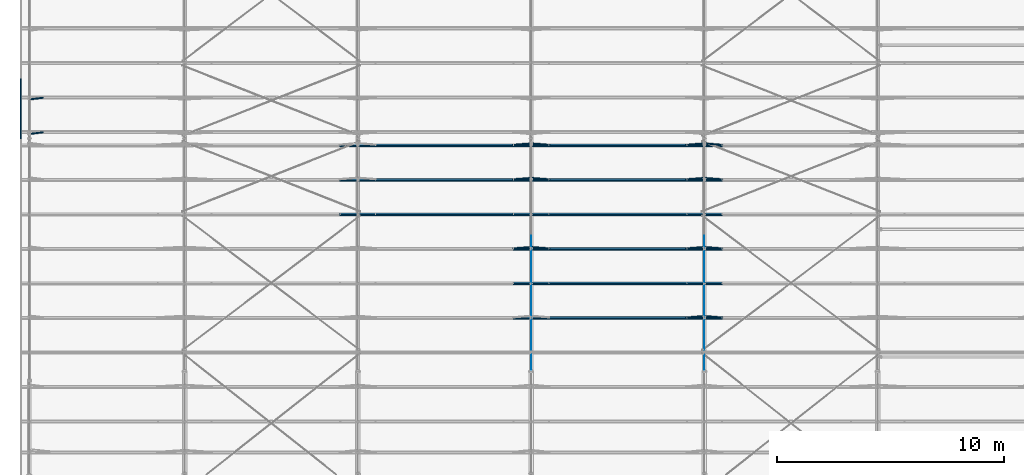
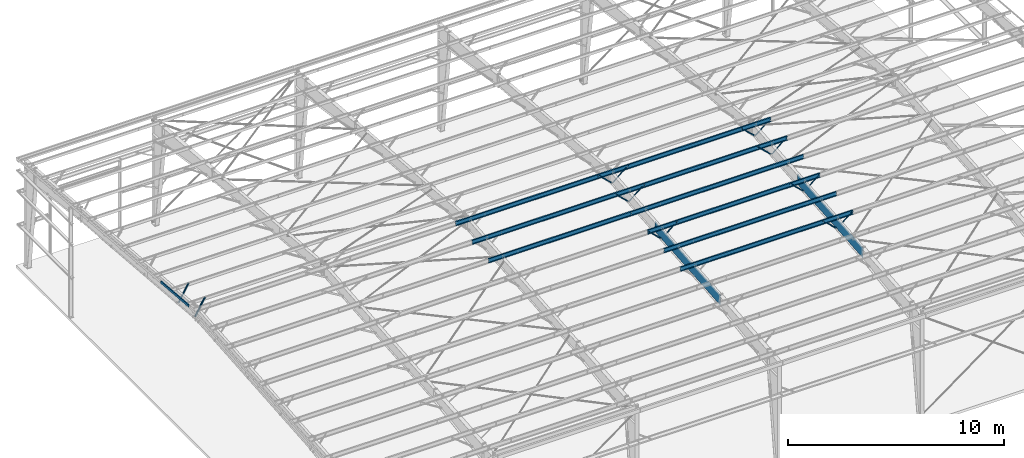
# One storey, part 10 of 185: 16 members, 12 beams, 28 elements without a shape of their own.
"""IFC2X3 building model written with IfcOpenShell, lengths in millimetres."""

from ifc_helpers import new_model, si_unit, frame, origin_with_axes, origin_2d_with_axis, place, context, subcontext, project, spatial, polyline, rectangle, outline, extrude, clip, halfspace, material, type_object, element, aggregate, save


model = new_model("IFC2X3")

# Units and contexts
model_context = context("Model", 3, precision=1e-05, world=origin_with_axes())
body_context = subcontext(model_context, "Body", "Model", "MODEL_VIEW")
ifc_project = project(units=[si_unit("LENGTHUNIT", "METRE", prefix="MILLI"), si_unit("AREAUNIT", "SQUARE_METRE"), si_unit("VOLUMEUNIT", "CUBIC_METRE"), si_unit("MASSUNIT", "GRAM", prefix="KILO"), si_unit("TIMEUNIT", "SECOND"), si_unit("PLANEANGLEUNIT", "RADIAN"), si_unit("SOLIDANGLEUNIT", "STERADIAN"), si_unit("THERMODYNAMICTEMPERATUREUNIT", "DEGREE_CELSIUS"), si_unit("LUMINOUSINTENSITYUNIT", "LUMEN")], contexts=[model_context])

# Site, building, storey
site_placement = place(None, origin_with_axes())
site = spatial("IfcSite", under=ifc_project, at=site_placement, Name="Undefined", CompositionType="ELEMENT")
building_placement = place(site_placement, origin_with_axes())
building = spatial("IfcBuilding", under=site, at=building_placement, Name="Undefined", CompositionType="ELEMENT")
storey_placement = place(building_placement, origin_with_axes())
storey = spatial("IfcBuildingStorey", under=building, at=storey_placement, Name="Undefined", CompositionType="ELEMENT", Elevation=0.0)

# Assembly, beam
assembly_1_placement = place(storey_placement, origin_with_axes())
assembly_1 = element("IfcElementAssembly", 1, at=assembly_1_placement, inside=storey, Name="Steel Assembly", AssemblyPlace="NOTDEFINED", PredefinedType="RIGID_FRAME")
ifc_material = material(Name="STEEL/55")
beam_type_1 = type_object("IfcBeamType", Name="8Z15", PredefinedType="NOTDEFINED")
beam_1_placement = place(assembly_1_placement, frame((22479.0, 8113.01202030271, 6670.13216896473), z_axis=(0.0, 0.0830454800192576, -0.996545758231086), x_axis=(1.0, 0.0, 0.0)))
beam_1 = element("IfcBeam", 2, at=beam_1_placement, type_object=beam_type_1, material=ifc_material, Name="Purlin", ObjectType="8Z15", context=body_context, shape_type="Clipping", body=[
    clip(clip(extrude(outline(polyline([(-75.75, 87.0100021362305), (-63.5, 101.599998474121), (1.5900000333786, 101.599998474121), (1.5900000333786, -98.4199981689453), (62.0200004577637, -98.4199981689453), (73.3099975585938, -84.9700012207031), (75.7399978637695, -87.0100021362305), (63.5, -101.599998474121), (-1.5900000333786, -101.599998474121), (-1.5900000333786, 98.4199981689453), (-62.0200004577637, 98.4199981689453), (-73.3099975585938, 84.9700012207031), (-75.75, 87.0100021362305)])), frame((8420.1, 0.0, 0.0), z_axis=(-1.0, 0.0, 0.0), x_axis=(0.0, -1.0, 0.0)), (0.0, 0.0, 1.0), 9220.2), halfspace(frame((8420.1, 2.91402102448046e-09, -101.600000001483), z_axis=(-1.0, 0.0, 0.0), x_axis=(0.0, 0.0, 1.0)), True)), halfspace(frame((-800.1, 2.91402102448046e-09, -101.600000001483), z_axis=(-1.0, 0.0, 0.0), x_axis=(0.0, 0.0, 1.0)), False)),
])
aggregate(assembly_1, [beam_1])

assembly_2_placement = place(storey_placement, origin_with_axes())
assembly_2 = element("IfcElementAssembly", 3, at=assembly_2_placement, inside=storey, Name="Steel Assembly", AssemblyPlace="NOTDEFINED", PredefinedType="RIGID_FRAME")
beam_2_placement = place(assembly_2_placement, frame((22479.0, 9631.74775584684, 6796.69348051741), z_axis=(0.0, 0.0830454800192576, -0.996545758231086), x_axis=(1.0, 0.0, 0.0)))
beam_2 = element("IfcBeam", 4, at=beam_2_placement, type_object=beam_type_1, material=ifc_material, Name="Purlin", ObjectType="8Z15", context=body_context, shape_type="Clipping", body=[
    clip(clip(extrude(outline(polyline([(-75.75, 87.0100021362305), (-63.5, 101.599998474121), (1.5900000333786, 101.599998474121), (1.5900000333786, -98.4199981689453), (62.0200004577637, -98.4199981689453), (73.3099975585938, -84.9700012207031), (75.7399978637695, -87.0100021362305), (63.5, -101.599998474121), (-1.5900000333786, -101.599998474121), (-1.5900000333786, 98.4199981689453), (-62.0200004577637, 98.4199981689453), (-73.3099975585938, 84.9700012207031), (-75.75, 87.0100021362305)])), frame((8420.1, 0.0, 0.0), z_axis=(-1.0, 0.0, 0.0), x_axis=(0.0, -1.0, 0.0)), (0.0, 0.0, 1.0), 9220.2), halfspace(frame((8420.1, 2.91402102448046e-09, -101.600000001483), z_axis=(-1.0, 0.0, 0.0), x_axis=(0.0, 0.0, 1.0)), True)), halfspace(frame((-800.1, 2.91402102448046e-09, -101.600000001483), z_axis=(-1.0, 0.0, 0.0), x_axis=(0.0, 0.0, 1.0)), False)),
])
aggregate(assembly_2, [beam_2])

assembly_3_placement = place(storey_placement, origin_with_axes())
assembly_3 = element("IfcElementAssembly", 5, at=assembly_3_placement, inside=storey, Name="Steel Assembly", AssemblyPlace="NOTDEFINED", PredefinedType="RIGID_FRAME")
beam_3_placement = place(assembly_3_placement, frame((22479.0, 11150.483491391, 6923.2547920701), z_axis=(0.0, 0.0830454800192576, -0.996545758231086), x_axis=(1.0, 0.0, 0.0)))
beam_3 = element("IfcBeam", 6, at=beam_3_placement, type_object=beam_type_1, material=ifc_material, Name="Purlin", ObjectType="8Z15", context=body_context, shape_type="Clipping", body=[
    clip(clip(extrude(outline(polyline([(-75.75, 87.0100021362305), (-63.5, 101.599998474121), (1.5900000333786, 101.599998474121), (1.5900000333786, -98.4199981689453), (62.0200004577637, -98.4199981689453), (73.3099975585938, -84.9700012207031), (75.7399978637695, -87.0100021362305), (63.5, -101.599998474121), (-1.5900000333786, -101.599998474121), (-1.5900000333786, 98.4199981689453), (-62.0200004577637, 98.4199981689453), (-73.3099975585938, 84.9700012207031), (-75.75, 87.0100021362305)])), frame((8420.1, 0.0, 0.0), z_axis=(-1.0, 0.0, 0.0), x_axis=(0.0, -1.0, 0.0)), (0.0, 0.0, 1.0), 9220.2), halfspace(frame((8420.1, 2.91402102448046e-09, -101.600000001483), z_axis=(-1.0, 0.0, 0.0), x_axis=(0.0, 0.0, 1.0)), True)), halfspace(frame((-800.1, 2.91402102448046e-09, -101.600000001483), z_axis=(-1.0, 0.0, 0.0), x_axis=(0.0, 0.0, 1.0)), False)),
])
aggregate(assembly_3, [beam_3])

assembly_4_placement = place(storey_placement, origin_with_axes())
assembly_4 = element("IfcElementAssembly", 7, at=assembly_4_placement, inside=storey, Name="Steel Assembly", AssemblyPlace="NOTDEFINED", PredefinedType="RIGID_FRAME")
beam_4_placement = place(assembly_4_placement, frame((22479.0, 12669.2192269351, 7049.81610362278), z_axis=(0.0, 0.0830454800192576, -0.996545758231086), x_axis=(1.0, 0.0, 0.0)))
beam_4 = element("IfcBeam", 8, at=beam_4_placement, type_object=beam_type_1, material=ifc_material, Name="Purlin", ObjectType="8Z15", context=body_context, shape_type="Clipping", body=[
    clip(clip(extrude(outline(polyline([(-75.75, 87.0100021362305), (-63.5, 101.599998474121), (1.5900000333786, 101.599998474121), (1.5900000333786, -98.4199981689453), (62.0200004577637, -98.4199981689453), (73.3099975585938, -84.9700012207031), (75.7399978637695, -87.0100021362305), (63.5, -101.599998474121), (-1.5900000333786, -101.599998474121), (-1.5900000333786, 98.4199981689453), (-62.0200004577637, 98.4199981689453), (-73.3099975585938, 84.9700012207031), (-75.75, 87.0100021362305)])), frame((8420.1, 0.0, 0.0), z_axis=(-1.0, 0.0, 0.0), x_axis=(0.0, -1.0, 0.0)), (0.0, 0.0, 1.0), 9220.2), halfspace(frame((8420.1, 2.91402102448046e-09, -101.600000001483), z_axis=(-1.0, 0.0, 0.0), x_axis=(0.0, 0.0, 1.0)), True)), halfspace(frame((-800.1, 2.91402102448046e-09, -101.600000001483), z_axis=(-1.0, 0.0, 0.0), x_axis=(0.0, 0.0, 1.0)), False)),
])
aggregate(assembly_4, [beam_4])

assembly_5_placement = place(storey_placement, origin_with_axes())
assembly_5 = element("IfcElementAssembly", 9, at=assembly_5_placement, inside=storey, Name="Steel Assembly", AssemblyPlace="NOTDEFINED", PredefinedType="RIGID_FRAME")
beam_5_placement = place(assembly_5_placement, frame((22479.0, 14187.9549624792, 7176.37741517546), z_axis=(0.0, 0.0830454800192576, -0.996545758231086), x_axis=(1.0, 0.0, 0.0)))
beam_5 = element("IfcBeam", 10, at=beam_5_placement, type_object=beam_type_1, material=ifc_material, Name="Purlin", ObjectType="8Z15", context=body_context, shape_type="Clipping", body=[
    clip(clip(extrude(outline(polyline([(-75.75, 87.0100021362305), (-63.5, 101.599998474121), (1.5900000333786, 101.599998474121), (1.5900000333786, -98.4199981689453), (62.0200004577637, -98.4199981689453), (73.3099975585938, -84.9700012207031), (75.7399978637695, -87.0100021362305), (63.5, -101.599998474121), (-1.5900000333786, -101.599998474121), (-1.5900000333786, 98.4199981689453), (-62.0200004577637, 98.4199981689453), (-73.3099975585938, 84.9700012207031), (-75.75, 87.0100021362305)])), frame((8420.1, 0.0, 0.0), z_axis=(-1.0, 0.0, 0.0), x_axis=(0.0, -1.0, 0.0)), (0.0, 0.0, 1.0), 9220.2), halfspace(frame((8420.1, 2.91402102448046e-09, -101.600000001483), z_axis=(-1.0, 0.0, 0.0), x_axis=(0.0, 0.0, 1.0)), True)), halfspace(frame((-800.1, 2.91402102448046e-09, -101.600000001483), z_axis=(-1.0, 0.0, 0.0), x_axis=(0.0, 0.0, 1.0)), False)),
])
aggregate(assembly_5, [beam_5])

assembly_6_placement = place(storey_placement, origin_with_axes())
assembly_6 = element("IfcElementAssembly", 11, at=assembly_6_placement, inside=storey, Name="Steel Assembly", AssemblyPlace="NOTDEFINED", PredefinedType="RIGID_FRAME")
beam_6_placement = place(assembly_6_placement, frame((22479.0, 15706.6906980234, 7302.93872672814), z_axis=(0.0, 0.0830454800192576, -0.996545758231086), x_axis=(1.0, 0.0, 0.0)))
beam_6 = element("IfcBeam", 12, at=beam_6_placement, type_object=beam_type_1, material=ifc_material, Name="Purlin", ObjectType="8Z15", context=body_context, shape_type="Clipping", body=[
    clip(clip(extrude(outline(polyline([(-75.75, 87.0100021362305), (-63.5, 101.599998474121), (1.5900000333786, 101.599998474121), (1.5900000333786, -98.4199981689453), (62.0200004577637, -98.4199981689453), (73.3099975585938, -84.9700012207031), (75.7399978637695, -87.0100021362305), (63.5, -101.599998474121), (-1.5900000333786, -101.599998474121), (-1.5900000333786, 98.4199981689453), (-62.0200004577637, 98.4199981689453), (-73.3099975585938, 84.9700012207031), (-75.75, 87.0100021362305)])), frame((8420.1, 0.0, 0.0), z_axis=(-1.0, 0.0, 0.0), x_axis=(0.0, -1.0, 0.0)), (0.0, 0.0, 1.0), 9220.2), halfspace(frame((8420.1, 2.91402102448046e-09, -101.600000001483), z_axis=(-1.0, 0.0, 0.0), x_axis=(0.0, 0.0, 1.0)), True)), halfspace(frame((-800.1, 2.91402102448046e-09, -101.600000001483), z_axis=(-1.0, 0.0, 0.0), x_axis=(0.0, 0.0, 1.0)), False)),
])
aggregate(assembly_6, [beam_6])

assembly_7_placement = place(storey_placement, origin_with_axes())
assembly_7 = element("IfcElementAssembly", 13, at=assembly_7_placement, inside=storey, Name="Steel Assembly", AssemblyPlace="NOTDEFINED", PredefinedType="RIGID_FRAME")
beam_7_placement = place(assembly_7_placement, frame((14859.0, 12669.2192269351, 7049.81610362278), z_axis=(0.0, 0.0830454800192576, -0.996545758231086), x_axis=(1.0, 0.0, 0.0)))
beam_7 = element("IfcBeam", 14, at=beam_7_placement, type_object=beam_type_1, material=ifc_material, Name="Purlin", ObjectType="8Z15", context=body_context, shape_type="Clipping", body=[
    clip(clip(extrude(outline(polyline([(-75.75, 87.0100021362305), (-63.5, 101.599998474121), (1.5900000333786, 101.599998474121), (1.5900000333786, -98.4199981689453), (62.0200004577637, -98.4199981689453), (73.3099975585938, -84.9700012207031), (75.7399978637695, -87.0100021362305), (63.5, -101.599998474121), (-1.5900000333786, -101.599998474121), (-1.5900000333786, 98.4199981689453), (-62.0200004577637, 98.4199981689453), (-73.3099975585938, 84.9700012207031), (-75.75, 87.0100021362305)])), frame((8420.1, 0.0, 0.0), z_axis=(-1.0, 0.0, 0.0), x_axis=(0.0, -1.0, 0.0)), (0.0, 0.0, 1.0), 9220.2), halfspace(frame((8420.1, 2.91402102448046e-09, -101.600000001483), z_axis=(-1.0, 0.0, 0.0), x_axis=(0.0, 0.0, 1.0)), True)), halfspace(frame((-800.1, 2.91402102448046e-09, -101.600000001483), z_axis=(-1.0, 0.0, 0.0), x_axis=(0.0, 0.0, 1.0)), False)),
])
aggregate(assembly_7, [beam_7])

assembly_8_placement = place(storey_placement, origin_with_axes())
assembly_8 = element("IfcElementAssembly", 15, at=assembly_8_placement, inside=storey, Name="Steel Assembly", AssemblyPlace="NOTDEFINED", PredefinedType="RIGID_FRAME")
beam_8_placement = place(assembly_8_placement, frame((14859.0, 14187.9549624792, 7176.37741517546), z_axis=(0.0, 0.0830454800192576, -0.996545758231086), x_axis=(1.0, 0.0, 0.0)))
beam_8 = element("IfcBeam", 16, at=beam_8_placement, type_object=beam_type_1, material=ifc_material, Name="Purlin", ObjectType="8Z15", context=body_context, shape_type="Clipping", body=[
    clip(clip(extrude(outline(polyline([(-75.75, 87.0100021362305), (-63.5, 101.599998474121), (1.5900000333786, 101.599998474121), (1.5900000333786, -98.4199981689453), (62.0200004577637, -98.4199981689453), (73.3099975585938, -84.9700012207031), (75.7399978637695, -87.0100021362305), (63.5, -101.599998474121), (-1.5900000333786, -101.599998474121), (-1.5900000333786, 98.4199981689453), (-62.0200004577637, 98.4199981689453), (-73.3099975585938, 84.9700012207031), (-75.75, 87.0100021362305)])), frame((8420.1, 0.0, 0.0), z_axis=(-1.0, 0.0, 0.0), x_axis=(0.0, -1.0, 0.0)), (0.0, 0.0, 1.0), 9220.2), halfspace(frame((8420.1, 2.91402102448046e-09, -101.600000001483), z_axis=(-1.0, 0.0, 0.0), x_axis=(0.0, 0.0, 1.0)), True)), halfspace(frame((-800.1, 2.91402102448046e-09, -101.600000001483), z_axis=(-1.0, 0.0, 0.0), x_axis=(0.0, 0.0, 1.0)), False)),
])
aggregate(assembly_8, [beam_8])

assembly_9_placement = place(storey_placement, origin_with_axes())
assembly_9 = element("IfcElementAssembly", 17, at=assembly_9_placement, inside=storey, Name="Steel Assembly", AssemblyPlace="NOTDEFINED", PredefinedType="RIGID_FRAME")
beam_9_placement = place(assembly_9_placement, frame((14859.0, 15706.6906980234, 7302.93872672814), z_axis=(0.0, 0.0830454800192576, -0.996545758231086), x_axis=(1.0, 0.0, 0.0)))
beam_9 = element("IfcBeam", 18, at=beam_9_placement, type_object=beam_type_1, material=ifc_material, Name="Purlin", ObjectType="8Z15", context=body_context, shape_type="Clipping", body=[
    clip(clip(extrude(outline(polyline([(-75.75, 87.0100021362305), (-63.5, 101.599998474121), (1.5900000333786, 101.599998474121), (1.5900000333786, -98.4199981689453), (62.0200004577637, -98.4199981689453), (73.3099975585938, -84.9700012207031), (75.7399978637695, -87.0100021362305), (63.5, -101.599998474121), (-1.5900000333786, -101.599998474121), (-1.5900000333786, 98.4199981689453), (-62.0200004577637, 98.4199981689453), (-73.3099975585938, 84.9700012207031), (-75.75, 87.0100021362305)])), frame((8420.1, 0.0, 0.0), z_axis=(-1.0, 0.0, 0.0), x_axis=(0.0, -1.0, 0.0)), (0.0, 0.0, 1.0), 9220.2), halfspace(frame((8420.1, 2.91402102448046e-09, -101.600000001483), z_axis=(-1.0, 0.0, 0.0), x_axis=(0.0, 0.0, 1.0)), True)), halfspace(frame((-800.1, 2.91402102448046e-09, -101.600000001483), z_axis=(-1.0, 0.0, 0.0), x_axis=(0.0, 0.0, 1.0)), False)),
])
aggregate(assembly_9, [beam_9])

# Assembly, member
assembly_10_placement = place(storey_placement, origin_with_axes())
assembly_10 = element("IfcElementAssembly", 19, at=assembly_10_placement, inside=storey, Name="Steel Assembly", AssemblyPlace="NOTDEFINED", PredefinedType="RIGID_FRAME")
member_type = type_object("IfcMemberType", Name="FB-", PredefinedType="NOTDEFINED")
member_1_placement = place(assembly_10_placement, frame((30053.3142891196, 8170.70729560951, 5977.78886512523), z_axis=(0.697745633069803, -0.0594892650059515, 0.713871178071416), x_axis=(-0.716345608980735, -0.0579446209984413, 0.6953354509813)))
member_1 = element("IfcMember", 20, at=member_1_placement, type_object=member_type, material=ifc_material, Name="2X2 FLANGE BRACE X 48", ObjectType="FB-", context=body_context, shape_type="SweptSolid", body=[
    extrude(outline(polyline([(1.5900000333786, 1.59000003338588), (50.7999992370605, 1.59000003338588), (50.7999992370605, 7.27595761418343e-12), (0.0, 0.0), (0.0, 50.7999992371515), (1.5900000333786, 50.7999992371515), (1.5900000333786, 1.59000003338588)])), frame((1067.82563693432, 1.82639893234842e-12, 1.75971317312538e-12), z_axis=(-1.0, 0.0, 0.0), x_axis=(0.0, -1.0, 0.0)), (0.0, 0.0, 1.0), 1067.8),
])
aggregate(assembly_10, [member_1])

assembly_11_placement = place(storey_placement, origin_with_axes())
assembly_11 = element("IfcElementAssembly", 21, at=assembly_11_placement, inside=storey, Name="Steel Assembly", AssemblyPlace="NOTDEFINED", PredefinedType="RIGID_FRAME")
member_2_placement = place(assembly_11_placement, frame((22433.314289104, 15764.38597343, 6610.59542162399), z_axis=(0.697745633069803, -0.0594892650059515, 0.713871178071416), x_axis=(-0.716345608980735, -0.0579446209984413, 0.6953354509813)))
member_2 = element("IfcMember", 22, at=member_2_placement, type_object=member_type, material=ifc_material, Name="2X2 FLANGE BRACE X 48", ObjectType="FB-", context=body_context, shape_type="SweptSolid", body=[
    extrude(outline(polyline([(1.5900000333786, 1.59000003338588), (50.7999992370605, 1.59000003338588), (50.7999992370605, 7.27595761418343e-12), (0.0, 0.0), (0.0, 50.7999992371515), (1.5900000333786, 50.7999992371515), (1.5900000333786, 1.59000003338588)])), frame((1067.82563693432, 1.82639893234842e-12, 1.75971317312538e-12), z_axis=(-1.0, 0.0, 0.0), x_axis=(0.0, -1.0, 0.0)), (0.0, 0.0, 1.0), 1067.8),
])
aggregate(assembly_11, [member_2])

assembly_12_placement = place(storey_placement, origin_with_axes())
assembly_12 = element("IfcElementAssembly", 23, at=assembly_12_placement, inside=storey, Name="Steel Assembly", AssemblyPlace="NOTDEFINED", PredefinedType="RIGID_FRAME")
member_3_placement = place(assembly_12_placement, frame((30053.314289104, 15764.3859734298, 6610.59542162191), z_axis=(0.697745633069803, -0.0594892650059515, 0.713871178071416), x_axis=(-0.716345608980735, -0.0579446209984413, 0.6953354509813)))
member_3 = element("IfcMember", 24, at=member_3_placement, type_object=member_type, material=ifc_material, Name="2X2 FLANGE BRACE X 48", ObjectType="FB-", context=body_context, shape_type="SweptSolid", body=[
    extrude(outline(polyline([(1.5900000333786, 1.59000003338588), (50.7999992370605, 1.59000003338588), (50.7999992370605, 7.27595761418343e-12), (0.0, 0.0), (0.0, 50.7999992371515), (1.5900000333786, 50.7999992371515), (1.5900000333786, 1.59000003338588)])), frame((1067.82563693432, 1.82639893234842e-12, 1.75971317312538e-12), z_axis=(-1.0, 0.0, 0.0), x_axis=(0.0, -1.0, 0.0)), (0.0, 0.0, 1.0), 1067.8),
])
aggregate(assembly_12, [member_3])

assembly_13_placement = place(storey_placement, origin_with_axes())
assembly_13 = element("IfcElementAssembly", 25, at=assembly_13_placement, inside=storey, Name="Steel Assembly", AssemblyPlace="NOTDEFINED", PredefinedType="RIGID_FRAME")
member_4_placement = place(assembly_13_placement, frame((22433.3142891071, 14245.6502378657, 6484.03411032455), z_axis=(0.697745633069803, -0.0594892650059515, 0.713871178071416), x_axis=(-0.716345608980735, -0.0579446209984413, 0.6953354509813)))
member_4 = element("IfcMember", 26, at=member_4_placement, type_object=member_type, material=ifc_material, Name="2X2 FLANGE BRACE X 48", ObjectType="FB-", context=body_context, shape_type="SweptSolid", body=[
    extrude(outline(polyline([(1.5900000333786, 1.59000003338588), (50.7999992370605, 1.59000003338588), (50.7999992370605, 7.27595761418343e-12), (0.0, 0.0), (0.0, 50.7999992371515), (1.5900000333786, 50.7999992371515), (1.5900000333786, 1.59000003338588)])), frame((1067.82563693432, 1.82639893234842e-12, 1.75971317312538e-12), z_axis=(-1.0, 0.0, 0.0), x_axis=(0.0, -1.0, 0.0)), (0.0, 0.0, 1.0), 1067.8),
])
aggregate(assembly_13, [member_4])

assembly_14_placement = place(storey_placement, origin_with_axes())
assembly_14 = element("IfcElementAssembly", 27, at=assembly_14_placement, inside=storey, Name="Steel Assembly", AssemblyPlace="NOTDEFINED", PredefinedType="RIGID_FRAME")
member_5_placement = place(assembly_14_placement, frame((30053.3142891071, 14245.6502378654, 6484.03411032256), z_axis=(0.697745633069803, -0.0594892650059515, 0.713871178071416), x_axis=(-0.716345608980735, -0.0579446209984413, 0.6953354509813)))
member_5 = element("IfcMember", 28, at=member_5_placement, type_object=member_type, material=ifc_material, Name="2X2 FLANGE BRACE X 48", ObjectType="FB-", context=body_context, shape_type="SweptSolid", body=[
    extrude(outline(polyline([(1.5900000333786, 1.59000003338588), (50.7999992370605, 1.59000003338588), (50.7999992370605, 7.27595761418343e-12), (0.0, 0.0), (0.0, 50.7999992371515), (1.5900000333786, 50.7999992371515), (1.5900000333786, 1.59000003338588)])), frame((1067.82563693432, 1.82639893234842e-12, 1.75971317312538e-12), z_axis=(-1.0, 0.0, 0.0), x_axis=(0.0, -1.0, 0.0)), (0.0, 0.0, 1.0), 1067.8),
])
aggregate(assembly_14, [member_5])

assembly_15_placement = place(storey_placement, origin_with_axes())
assembly_15 = element("IfcElementAssembly", 29, at=assembly_15_placement, inside=storey, Name="Steel Assembly", AssemblyPlace="NOTDEFINED", PredefinedType="RIGID_FRAME")
member_6_placement = place(assembly_15_placement, frame((22433.3142891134, 11208.1787667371, 6230.91148772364), z_axis=(0.697745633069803, -0.0594892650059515, 0.713871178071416), x_axis=(-0.716345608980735, -0.0579446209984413, 0.6953354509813)))
member_6 = element("IfcMember", 30, at=member_6_placement, type_object=member_type, material=ifc_material, Name="2X2 FLANGE BRACE X 48", ObjectType="FB-", context=body_context, shape_type="SweptSolid", body=[
    extrude(outline(polyline([(1.5900000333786, 1.59000003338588), (50.7999992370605, 1.59000003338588), (50.7999992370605, 7.27595761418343e-12), (0.0, 0.0), (0.0, 50.7999992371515), (1.5900000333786, 50.7999992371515), (1.5900000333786, 1.59000003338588)])), frame((1067.82563693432, 1.82639893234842e-12, 1.75971317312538e-12), z_axis=(-1.0, 0.0, 0.0), x_axis=(0.0, -1.0, 0.0)), (0.0, 0.0, 1.0), 1067.8),
])
aggregate(assembly_15, [member_6])

assembly_16_placement = place(storey_placement, origin_with_axes())
assembly_16 = element("IfcElementAssembly", 31, at=assembly_16_placement, inside=storey, Name="Steel Assembly", AssemblyPlace="NOTDEFINED", PredefinedType="RIGID_FRAME")
member_7_placement = place(assembly_16_placement, frame((30053.3142891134, 11208.1787667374, 6230.91148772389), z_axis=(0.697745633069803, -0.0594892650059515, 0.713871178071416), x_axis=(-0.716345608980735, -0.0579446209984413, 0.6953354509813)))
member_7 = element("IfcMember", 32, at=member_7_placement, type_object=member_type, material=ifc_material, Name="2X2 FLANGE BRACE X 48", ObjectType="FB-", context=body_context, shape_type="SweptSolid", body=[
    extrude(outline(polyline([(1.5900000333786, 1.59000003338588), (50.7999992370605, 1.59000003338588), (50.7999992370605, 7.27595761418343e-12), (0.0, 0.0), (0.0, 50.7999992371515), (1.5900000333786, 50.7999992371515), (1.5900000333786, 1.59000003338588)])), frame((1067.82563693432, 1.82639893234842e-12, 1.75971317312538e-12), z_axis=(-1.0, 0.0, 0.0), x_axis=(0.0, -1.0, 0.0)), (0.0, 0.0, 1.0), 1067.8),
])
aggregate(assembly_16, [member_7])

assembly_17_placement = place(storey_placement, origin_with_axes())
assembly_17 = element("IfcElementAssembly", 33, at=assembly_17_placement, inside=storey, Name="Steel Assembly", AssemblyPlace="NOTDEFINED", PredefinedType="RIGID_FRAME")
member_8_placement = place(assembly_17_placement, frame((30144.6857108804, 8170.70729560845, 5977.78886512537), z_axis=(0.0, 0.996545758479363, 0.0830454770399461), x_axis=(0.716345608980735, -0.0579446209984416, 0.695335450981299)))
member_8 = element("IfcMember", 34, at=member_8_placement, type_object=member_type, material=ifc_material, Name="2X2 FLANGE BRACE X 48", ObjectType="FB-", context=body_context, shape_type="SweptSolid", body=[
    extrude(outline(polyline([(1.5900000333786, 1.59000003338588), (50.7999992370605, 1.59000003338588), (50.7999992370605, 7.27595761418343e-12), (0.0, 0.0), (0.0, 50.7999992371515), (1.5900000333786, 50.7999992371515), (1.5900000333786, 1.59000003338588)])), frame((1067.82563693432, 1.82639893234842e-12, 1.75971317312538e-12), z_axis=(-1.0, 0.0, 0.0), x_axis=(0.0, -1.0, 0.0)), (0.0, 0.0, 1.0), 1067.8),
])
aggregate(assembly_17, [member_8])

assembly_18_placement = place(storey_placement, origin_with_axes())
assembly_18 = element("IfcElementAssembly", 35, at=assembly_18_placement, inside=storey, Name="Steel Assembly", AssemblyPlace="NOTDEFINED", PredefinedType="RIGID_FRAME")
member_9_placement = place(assembly_18_placement, frame((30144.6857108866, 11208.1787667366, 6230.91148772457), z_axis=(0.0, 0.996545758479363, 0.0830454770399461), x_axis=(0.716345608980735, -0.0579446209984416, 0.695335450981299)))
member_9 = element("IfcMember", 36, at=member_9_placement, type_object=member_type, material=ifc_material, Name="2X2 FLANGE BRACE X 48", ObjectType="FB-", context=body_context, shape_type="SweptSolid", body=[
    extrude(outline(polyline([(1.5900000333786, 1.59000003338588), (50.7999992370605, 1.59000003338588), (50.7999992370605, 7.27595761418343e-12), (0.0, 0.0), (0.0, 50.7999992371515), (1.5900000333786, 50.7999992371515), (1.5900000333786, 1.59000003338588)])), frame((1067.82563693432, 1.82639893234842e-12, 1.75971317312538e-12), z_axis=(-1.0, 0.0, 0.0), x_axis=(0.0, -1.0, 0.0)), (0.0, 0.0, 1.0), 1067.8),
])
aggregate(assembly_18, [member_9])

assembly_19_placement = place(storey_placement, origin_with_axes())
assembly_19 = element("IfcElementAssembly", 37, at=assembly_19_placement, inside=storey, Name="Steel Assembly", AssemblyPlace="NOTDEFINED", PredefinedType="RIGID_FRAME")
member_10_placement = place(assembly_19_placement, frame((30144.6857108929, 14245.6502378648, 6484.03411032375), z_axis=(0.0, 0.996545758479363, 0.0830454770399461), x_axis=(0.716345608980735, -0.0579446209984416, 0.695335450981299)))
member_10 = element("IfcMember", 38, at=member_10_placement, type_object=member_type, material=ifc_material, Name="2X2 FLANGE BRACE X 48", ObjectType="FB-", context=body_context, shape_type="SweptSolid", body=[
    extrude(outline(polyline([(1.5900000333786, 1.59000003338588), (50.7999992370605, 1.59000003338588), (50.7999992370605, 7.27595761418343e-12), (0.0, 0.0), (0.0, 50.7999992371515), (1.5900000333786, 50.7999992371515), (1.5900000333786, 1.59000003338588)])), frame((1067.82563693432, 1.82639893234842e-12, 1.75971317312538e-12), z_axis=(-1.0, 0.0, 0.0), x_axis=(0.0, -1.0, 0.0)), (0.0, 0.0, 1.0), 1067.8),
])
aggregate(assembly_19, [member_10])

assembly_20_placement = place(storey_placement, origin_with_axes())
assembly_20 = element("IfcElementAssembly", 39, at=assembly_20_placement, inside=storey, Name="Steel Assembly", AssemblyPlace="NOTDEFINED", PredefinedType="RIGID_FRAME")
member_11_placement = place(assembly_20_placement, frame((30144.685710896, 15764.3859734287, 6610.59542162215), z_axis=(0.0, 0.996545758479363, 0.0830454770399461), x_axis=(0.716345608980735, -0.0579446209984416, 0.695335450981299)))
member_11 = element("IfcMember", 40, at=member_11_placement, type_object=member_type, material=ifc_material, Name="2X2 FLANGE BRACE X 48", ObjectType="FB-", context=body_context, shape_type="SweptSolid", body=[
    extrude(outline(polyline([(1.5900000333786, 1.59000003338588), (50.7999992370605, 1.59000003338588), (50.7999992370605, 7.27595761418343e-12), (0.0, 0.0), (0.0, 50.7999992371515), (1.5900000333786, 50.7999992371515), (1.5900000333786, 1.59000003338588)])), frame((1067.82563693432, 1.82639893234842e-12, 1.75971317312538e-12), z_axis=(-1.0, 0.0, 0.0), x_axis=(0.0, -1.0, 0.0)), (0.0, 0.0, 1.0), 1067.8),
])
aggregate(assembly_20, [member_11])

assembly_21_placement = place(storey_placement, origin_with_axes())
assembly_21 = element("IfcElementAssembly", 41, at=assembly_21_placement, inside=storey, Name="Steel Assembly", AssemblyPlace="NOTDEFINED", PredefinedType="RIGID_FRAME")
member_12_placement = place(assembly_21_placement, frame((459.65433386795, 16231.3680246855, 6511.64339957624), z_axis=(-0.832860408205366, 0.0459642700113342, 0.551571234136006), x_axis=(0.553483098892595, 0.0691652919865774, 0.829983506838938)))
member_12 = element("IfcMember", 42, at=member_12_placement, type_object=member_type, material=ifc_material, Name="2X2 FLANGE BRACE X 48", ObjectType="FB-", context=body_context, shape_type="SweptSolid", body=[
    extrude(outline(polyline([(1.5900000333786, 1.59000003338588), (50.7999992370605, 1.59000003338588), (50.7999992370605, 7.27595761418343e-12), (0.0, 0.0), (0.0, 50.7999992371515), (1.5900000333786, 50.7999992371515), (1.5900000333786, 1.59000003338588)])), frame((1022.90167929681, -5.11529800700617e-13, 1.83318501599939e-12), z_axis=(-1.0, 0.0, 0.0), x_axis=(0.0, -1.0, 0.0)), (0.0, 0.0, 1.0), 1022.9),
])
aggregate(assembly_21, [member_12])

assembly_22_placement = place(storey_placement, origin_with_axes())
assembly_22 = element("IfcElementAssembly", 43, at=assembly_22_placement, inside=storey, Name="Steel Assembly", AssemblyPlace="NOTDEFINED", PredefinedType="RIGID_FRAME")
member_13_placement = place(assembly_22_placement, frame((459.654333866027, 17750.1037602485, 6385.0820882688), z_axis=(-0.832860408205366, 0.0459642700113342, 0.551571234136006), x_axis=(0.553483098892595, 0.0691652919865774, 0.829983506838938)))
member_13 = element("IfcMember", 44, at=member_13_placement, type_object=member_type, material=ifc_material, Name="2X2 FLANGE BRACE X 48", ObjectType="FB-", context=body_context, shape_type="SweptSolid", body=[
    extrude(outline(polyline([(1.5900000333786, 1.59000003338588), (50.7999992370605, 1.59000003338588), (50.7999992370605, 7.27595761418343e-12), (0.0, 0.0), (0.0, 50.7999992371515), (1.5900000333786, 50.7999992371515), (1.5900000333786, 1.59000003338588)])), frame((1022.90167929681, -5.11529800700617e-13, 1.83318501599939e-12), z_axis=(-1.0, 0.0, 0.0), x_axis=(0.0, -1.0, 0.0)), (0.0, 0.0, 1.0), 1022.9),
])
aggregate(assembly_22, [member_13])

assembly_23_placement = place(storey_placement, origin_with_axes())
assembly_23 = element("IfcElementAssembly", 45, at=assembly_23_placement, inside=storey, Name="Steel Assembly", AssemblyPlace="NOTDEFINED", PredefinedType="RIGID_FRAME")
member_14_placement = place(assembly_23_placement, frame((22524.685710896, 15764.3859734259, 6610.59542162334), z_axis=(0.0, 0.996545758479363, 0.0830454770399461), x_axis=(0.716345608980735, -0.0579446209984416, 0.695335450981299)))
member_14 = element("IfcMember", 46, at=member_14_placement, type_object=member_type, material=ifc_material, Name="2X2 FLANGE BRACE X 48", ObjectType="FB-", context=body_context, shape_type="SweptSolid", body=[
    extrude(outline(polyline([(1.5900000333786, 1.59000003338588), (50.7999992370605, 1.59000003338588), (50.7999992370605, 7.27595761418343e-12), (0.0, 0.0), (0.0, 50.7999992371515), (1.5900000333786, 50.7999992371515), (1.5900000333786, 1.59000003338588)])), frame((1067.82563693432, 1.82639893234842e-12, 1.75971317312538e-12), z_axis=(-1.0, 0.0, 0.0), x_axis=(0.0, -1.0, 0.0)), (0.0, 0.0, 1.0), 1067.8),
])
aggregate(assembly_23, [member_14])

assembly_24_placement = place(storey_placement, origin_with_axes())
assembly_24 = element("IfcElementAssembly", 47, at=assembly_24_placement, inside=storey, Name="Steel Assembly", AssemblyPlace="NOTDEFINED", PredefinedType="RIGID_FRAME")
member_15_placement = place(assembly_24_placement, frame((22524.6857108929, 14245.6502378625, 6484.03411032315), z_axis=(0.0, 0.996545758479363, 0.0830454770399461), x_axis=(0.716345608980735, -0.0579446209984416, 0.695335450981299)))
member_15 = element("IfcMember", 48, at=member_15_placement, type_object=member_type, material=ifc_material, Name="2X2 FLANGE BRACE X 48", ObjectType="FB-", context=body_context, shape_type="SweptSolid", body=[
    extrude(outline(polyline([(1.5900000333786, 1.59000003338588), (50.7999992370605, 1.59000003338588), (50.7999992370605, 7.27595761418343e-12), (0.0, 0.0), (0.0, 50.7999992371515), (1.5900000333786, 50.7999992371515), (1.5900000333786, 1.59000003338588)])), frame((1067.82563693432, 1.82639893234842e-12, 1.75971317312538e-12), z_axis=(-1.0, 0.0, 0.0), x_axis=(0.0, -1.0, 0.0)), (0.0, 0.0, 1.0), 1067.8),
])
aggregate(assembly_24, [member_15])

assembly_25_placement = place(storey_placement, origin_with_axes())
assembly_25 = element("IfcElementAssembly", 49, at=assembly_25_placement, inside=storey, Name="Steel Assembly", AssemblyPlace="NOTDEFINED", PredefinedType="RIGID_FRAME")
member_16_placement = place(assembly_25_placement, frame((22524.6857108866, 11208.1787667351, 6230.91148772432), z_axis=(0.0, 0.996545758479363, 0.0830454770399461), x_axis=(0.716345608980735, -0.0579446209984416, 0.695335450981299)))
member_16 = element("IfcMember", 50, at=member_16_placement, type_object=member_type, material=ifc_material, Name="2X2 FLANGE BRACE X 48", ObjectType="FB-", context=body_context, shape_type="SweptSolid", body=[
    extrude(outline(polyline([(1.5900000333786, 1.59000003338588), (50.7999992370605, 1.59000003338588), (50.7999992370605, 7.27595761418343e-12), (0.0, 0.0), (0.0, 50.7999992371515), (1.5900000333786, 50.7999992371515), (1.5900000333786, 1.59000003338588)])), frame((1067.82563693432, 1.82639893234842e-12, 1.75971317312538e-12), z_axis=(-1.0, 0.0, 0.0), x_axis=(0.0, -1.0, 0.0)), (0.0, 0.0, 1.0), 1067.8),
])
aggregate(assembly_25, [member_16])

# Assembly, beam
assembly_26_placement = place(storey_placement, origin_with_axes())
assembly_26 = element("IfcElementAssembly", 51, at=assembly_26_placement, inside=storey, Name="Steel Assembly", AssemblyPlace="NOTDEFINED", PredefinedType="RIGID_FRAME")
beam_type_2 = type_object("IfcBeamType", Name="RA-1", PredefinedType="NOTDEFINED")
beam_10_placement = place(assembly_26_placement, frame((0.0, 18639.0871311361, 7209.27885895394), z_axis=(0.0, -0.0830701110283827, -0.996543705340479), x_axis=(0.0, -0.996543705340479, 0.0830701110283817)))
beam_10 = element("IfcBeam", 52, at=beam_10_placement, type_object=beam_type_2, material=ifc_material, Name="STANDARD RAKE ANGLE", ObjectType="RA-1", context=body_context, shape_type="SweptSolid", body=[
    extrude(outline(polyline([(0.0, 0.0), (50.7999992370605, 7.27595761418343e-12), (50.7999992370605, -1.51999998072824), (-1.51999998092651, -1.51999998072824), (-1.51999998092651, 127.000000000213), (0.0, 127.000000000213), (0.0, 0.0)])), frame((2646.26680182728, 0.0, 0.0), z_axis=(-1.0, 0.0, 0.0), x_axis=(0.0, -1.0, 0.0)), (0.0, 0.0, 1.0), 2646.3),
])
aggregate(assembly_26, [beam_10])

assembly_27_placement = place(storey_placement, origin_with_axes())
assembly_27 = element("IfcElementAssembly", 53, at=assembly_27_placement, inside=storey, Name="Steel Assembly", AssemblyPlace="NOTDEFINED", PredefinedType="RIGID_FRAME")
beam_type_3 = type_object("IfcBeamType", Name="PL1/8\"X24\"", PredefinedType="NOTDEFINED")
beam_11_placement = place(assembly_27_placement, frame((30099.0, 5773.67992183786, 6059.40140337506), z_axis=(0.0, -0.0830454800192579, 0.996545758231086), x_axis=(0.0, 0.996545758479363, 0.0830454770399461)))
beam_11 = element("IfcBeam", 54, at=beam_11_placement, type_object=beam_type_3, material=ifc_material, Name="Web", ObjectType="PL1/8\"X24\"", context=body_context, shape_type="Clipping", body=[
    clip(extrude(rectangle(XDim=3.4163, YDim=609.59999999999, at=origin_2d_with_axis()), frame((6095.99999991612, 0.0, -8.45989944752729e-14), z_axis=(-1.0, 0.0, 0.0), x_axis=(0.0, -1.0, 0.0)), (0.0, 0.0, 1.0), 6096.0), halfspace(frame((2.96531652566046e-08, 0.0, 304.799999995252), z_axis=(-1.0, 0.0, 0.0), x_axis=(0.0, -1.0, 0.0)), False)),
])
aggregate(assembly_27, [beam_11])

assembly_28_placement = place(storey_placement, origin_with_axes())
assembly_28 = element("IfcElementAssembly", 55, at=assembly_28_placement, inside=storey, Name="Steel Assembly", AssemblyPlace="NOTDEFINED", PredefinedType="RIGID_FRAME")
beam_12_placement = place(assembly_28_placement, frame((22479.0, 5773.67992183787, 6059.40140337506), z_axis=(0.0, -0.0830454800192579, 0.996545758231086), x_axis=(0.0, 0.996545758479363, 0.0830454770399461)))
beam_12 = element("IfcBeam", 56, at=beam_12_placement, type_object=beam_type_3, material=ifc_material, Name="Web", ObjectType="PL1/8\"X24\"", context=body_context, shape_type="Clipping", body=[
    clip(extrude(rectangle(XDim=3.4163, YDim=609.59999999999, at=origin_2d_with_axis()), frame((6095.99999991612, 0.0, -8.45989944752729e-14), z_axis=(-1.0, 0.0, 0.0), x_axis=(0.0, -1.0, 0.0)), (0.0, 0.0, 1.0), 6096.0), halfspace(frame((2.96531652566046e-08, 0.0, 304.799999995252), z_axis=(-1.0, 0.0, 0.0), x_axis=(0.0, -1.0, 0.0)), False)),
])
aggregate(assembly_28, [beam_12])

save(model, "model.ifc")
